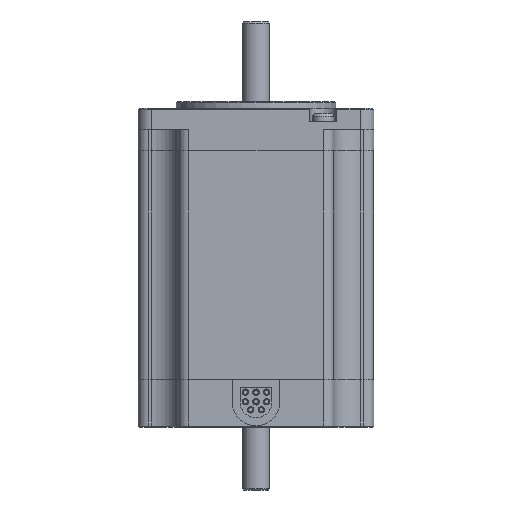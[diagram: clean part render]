
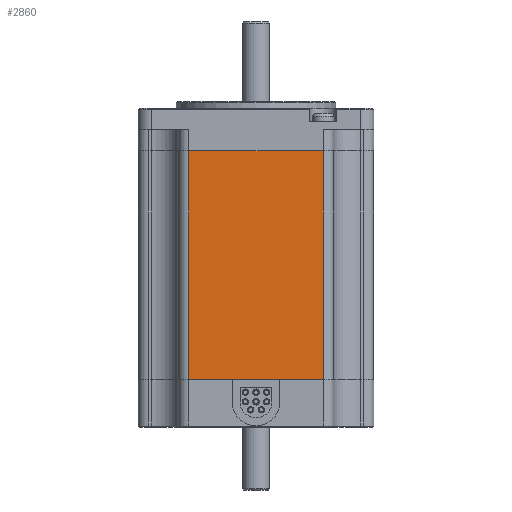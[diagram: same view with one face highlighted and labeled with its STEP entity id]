
A CAD part, front view. The second image highlights one B-rep face of the part: STEP entity #2860.
In plain terms, the highlighted planar face has unit normal (0, -1, 0).
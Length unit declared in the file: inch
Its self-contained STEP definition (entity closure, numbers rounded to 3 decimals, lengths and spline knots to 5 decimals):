
#1393 = VERTEX_POINT ( 'NONE', #13190 ) ;
#1447 = EDGE_CURVE ( 'NONE', #1460, #1393, #13195, .T. ) ;
#1460 = VERTEX_POINT ( 'NONE', #13343 ) ;
#2853 = ORIENTED_EDGE ( 'NONE', *, *, #2854, .F. ) ;
#2854 = EDGE_CURVE ( 'NONE', #2859, #1393, #5588, .T. ) ;
#2855 = ORIENTED_EDGE ( 'NONE', *, *, #2875, .T. ) ;
#2856 = ORIENTED_EDGE ( 'NONE', *, *, #2857, .F. ) ;
#2857 = EDGE_CURVE ( 'NONE', #2862, #2859, #5594, .T. ) ;
#2858 = ORIENTED_EDGE ( 'NONE', *, *, #1447, .T. ) ;
#2859 = VERTEX_POINT ( 'NONE', #5584 ) ;
#2860 = ADVANCED_FACE ( 'NONE', ( #5579 ), #5622, .F. ) ;
#2862 = VERTEX_POINT ( 'NONE', #5625 ) ;
#2865 = EDGE_LOOP ( 'NONE', ( #2858, #2853, #2856, #2855 ) ) ;
#2875 = EDGE_CURVE ( 'NONE', #2862, #1460, #5606, .T. ) ;
#5579 = FACE_OUTER_BOUND ( 'NONE', #2865, .T. ) ;
#5581 = DIRECTION ( 'NONE',  ( -1., 0., 0. ) ) ;
#5582 = VECTOR ( 'NONE', #5581, 39.37008 ) ;
#5584 = CARTESIAN_POINT ( 'NONE',  ( -0.63, -1.104, -2.542 ) ) ;
#5585 = DIRECTION ( 'NONE',  ( 0., 0., 1. ) ) ;
#5586 = VECTOR ( 'NONE', #5585, 39.37008 ) ;
#5587 = CARTESIAN_POINT ( 'NONE',  ( -0.63, -1.104, -2.542 ) ) ;
#5588 = LINE ( 'NONE', #5587, #5586 ) ;
#5593 = CARTESIAN_POINT ( 'NONE',  ( 0.63, -1.104, -2.542 ) ) ;
#5594 = LINE ( 'NONE', #5593, #5582 ) ;
#5606 = LINE ( 'NONE', #5670, #5669 ) ;
#5618 = DIRECTION ( 'NONE',  ( -1., 0., 0. ) ) ;
#5619 = DIRECTION ( 'NONE',  ( 0., 1., 0. ) ) ;
#5620 = CARTESIAN_POINT ( 'NONE',  ( 0.63, -1.104, -2.542 ) ) ;
#5621 = AXIS2_PLACEMENT_3D ( 'NONE', #5620, #5619, #5618 ) ;
#5622 = PLANE ( 'NONE',  #5621 ) ;
#5625 = CARTESIAN_POINT ( 'NONE',  ( 0.63, -1.104, -2.542 ) ) ;
#5668 = DIRECTION ( 'NONE',  ( 0., 0., 1. ) ) ;
#5669 = VECTOR ( 'NONE', #5668, 39.37008 ) ;
#5670 = CARTESIAN_POINT ( 'NONE',  ( 0.63, -1.104, -2.542 ) ) ;
#13190 = CARTESIAN_POINT ( 'NONE',  ( -0.63, -1.104, -0.4 ) ) ;
#13194 = CARTESIAN_POINT ( 'NONE',  ( 0.63, -1.104, -0.4 ) ) ;
#13195 = LINE ( 'NONE', #13194, #13297 ) ;
#13296 = DIRECTION ( 'NONE',  ( -1., 0., 0. ) ) ;
#13297 = VECTOR ( 'NONE', #13296, 39.37008 ) ;
#13343 = CARTESIAN_POINT ( 'NONE',  ( 0.63, -1.104, -0.4 ) ) ;
